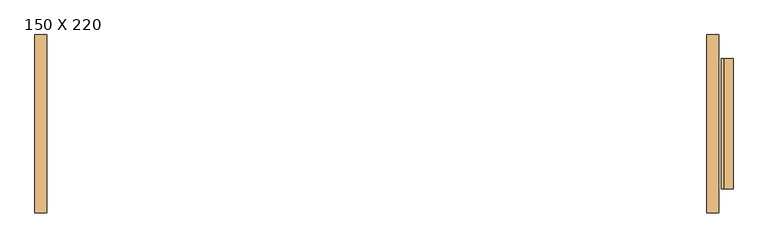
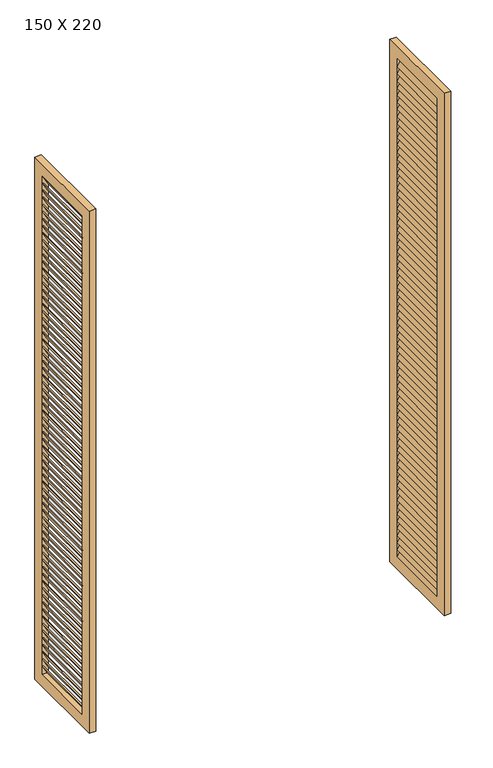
"""IFC4 building model written with IfcOpenShell, lengths in millimetres: door geometry, PORTA DE VIDRO COM ESQUADRIA DE CORRER - 2 FOLHAS + VENEZIANA SANFONADA - 4 FOLHAS : 150 X 220."""

from ifc_helpers import new_model, si_unit, frame, origin, place, context, project, spatial, polyline, outline, extrude, source, transform, mapped, element, save


def door_150_x_220_6ef245d6(model_context):
    return source(origin(), model_context, "Body", "SweptSolid", [
        extrude(outline(polyline([(2085.0724638, -687.8162356), (2085.0724638, -682.8162356), (2120.0724638, -702.8162356), (2120.0724638, -707.8162356), (2085.0724638, -687.8162356)])), frame((0.0, 60.1578647, 0.0), z_axis=(0.0, 1.0, 0.0), x_axis=(0.0, 0.0, 1.0)), (0.0, 0.0, 1.0), 275.0),
        extrude(outline(polyline([(2055.1449275, -687.8162356), (2055.1449275, -682.8162356), (2090.1449275, -702.8162356), (2090.1449275, -707.8162356), (2055.1449275, -687.8162356)])), frame((0.0, 60.1578647, 0.0), z_axis=(0.0, 1.0, 0.0), x_axis=(0.0, 0.0, 1.0)), (0.0, 0.0, 1.0), 275.0),
        extrude(outline(polyline([(2025.2173913, -687.8162356), (2025.2173913, -682.8162356), (2060.2173913, -702.8162356), (2060.2173913, -707.8162356), (2025.2173913, -687.8162356)])), frame((0.0, 60.1578647, 0.0), z_axis=(0.0, 1.0, 0.0), x_axis=(0.0, 0.0, 1.0)), (0.0, 0.0, 1.0), 275.0),
        extrude(outline(polyline([(1995.2898551, -687.8162356), (1995.2898551, -682.8162356), (2030.2898551, -702.8162356), (2030.2898551, -707.8162356), (1995.2898551, -687.8162356)])), frame((0.0, 60.1578647, 0.0), z_axis=(0.0, 1.0, 0.0), x_axis=(0.0, 0.0, 1.0)), (0.0, 0.0, 1.0), 275.0),
        extrude(outline(polyline([(1965.3623188, -687.8162356), (1965.3623188, -682.8162356), (2000.3623188, -702.8162356), (2000.3623188, -707.8162356), (1965.3623188, -687.8162356)])), frame((0.0, 60.1578647, 0.0), z_axis=(0.0, 1.0, 0.0), x_axis=(0.0, 0.0, 1.0)), (0.0, 0.0, 1.0), 275.0),
        extrude(outline(polyline([(1935.4347826, -687.8162356), (1935.4347826, -682.8162356), (1970.4347826, -702.8162356), (1970.4347826, -707.8162356), (1935.4347826, -687.8162356)])), frame((0.0, 60.1578647, 0.0), z_axis=(0.0, 1.0, 0.0), x_axis=(0.0, 0.0, 1.0)), (0.0, 0.0, 1.0), 275.0),
        extrude(outline(polyline([(1905.5072464, -687.8162356), (1905.5072464, -682.8162356), (1940.5072464, -702.8162356), (1940.5072464, -707.8162356), (1905.5072464, -687.8162356)])), frame((0.0, 60.1578647, 0.0), z_axis=(0.0, 1.0, 0.0), x_axis=(0.0, 0.0, 1.0)), (0.0, 0.0, 1.0), 275.0),
        extrude(outline(polyline([(1875.5797101, -687.8162356), (1875.5797101, -682.8162356), (1910.5797101, -702.8162356), (1910.5797101, -707.8162356), (1875.5797101, -687.8162356)])), frame((0.0, 60.1578647, 0.0), z_axis=(0.0, 1.0, 0.0), x_axis=(0.0, 0.0, 1.0)), (0.0, 0.0, 1.0), 275.0),
        extrude(outline(polyline([(1845.6521739, -687.8162356), (1845.6521739, -682.8162356), (1880.6521739, -702.8162356), (1880.6521739, -707.8162356), (1845.6521739, -687.8162356)])), frame((0.0, 60.1578647, 0.0), z_axis=(0.0, 1.0, 0.0), x_axis=(0.0, 0.0, 1.0)), (0.0, 0.0, 1.0), 275.0),
        extrude(outline(polyline([(1815.7246377, -687.8162356), (1815.7246377, -682.8162356), (1850.7246377, -702.8162356), (1850.7246377, -707.8162356), (1815.7246377, -687.8162356)])), frame((0.0, 60.1578647, 0.0), z_axis=(0.0, 1.0, 0.0), x_axis=(0.0, 0.0, 1.0)), (0.0, 0.0, 1.0), 275.0),
        extrude(outline(polyline([(1785.7971014, -687.8162356), (1785.7971014, -682.8162356), (1820.7971014, -702.8162356), (1820.7971014, -707.8162356), (1785.7971014, -687.8162356)])), frame((0.0, 60.1578647, 0.0), z_axis=(0.0, 1.0, 0.0), x_axis=(0.0, 0.0, 1.0)), (0.0, 0.0, 1.0), 275.0),
        extrude(outline(polyline([(1755.8695652, -687.8162356), (1755.8695652, -682.8162356), (1790.8695652, -702.8162356), (1790.8695652, -707.8162356), (1755.8695652, -687.8162356)])), frame((0.0, 60.1578647, 0.0), z_axis=(0.0, 1.0, 0.0), x_axis=(0.0, 0.0, 1.0)), (0.0, 0.0, 1.0), 275.0),
        extrude(outline(polyline([(1725.942029, -687.8162356), (1725.942029, -682.8162356), (1760.942029, -702.8162356), (1760.942029, -707.8162356), (1725.942029, -687.8162356)])), frame((0.0, 60.1578647, 0.0), z_axis=(0.0, 1.0, 0.0), x_axis=(0.0, 0.0, 1.0)), (0.0, 0.0, 1.0), 275.0),
        extrude(outline(polyline([(1696.0144928, -687.8162356), (1696.0144928, -682.8162356), (1731.0144928, -702.8162356), (1731.0144928, -707.8162356), (1696.0144928, -687.8162356)])), frame((0.0, 60.1578647, 0.0), z_axis=(0.0, 1.0, 0.0), x_axis=(0.0, 0.0, 1.0)), (0.0, 0.0, 1.0), 275.0),
        extrude(outline(polyline([(1666.0869565, -687.8162356), (1666.0869565, -682.8162356), (1701.0869565, -702.8162356), (1701.0869565, -707.8162356), (1666.0869565, -687.8162356)])), frame((0.0, 60.1578647, 0.0), z_axis=(0.0, 1.0, 0.0), x_axis=(0.0, 0.0, 1.0)), (0.0, 0.0, 1.0), 275.0),
        extrude(outline(polyline([(1636.1594203, -687.8162356), (1636.1594203, -682.8162356), (1671.1594203, -702.8162356), (1671.1594203, -707.8162356), (1636.1594203, -687.8162356)])), frame((0.0, 60.1578647, 0.0), z_axis=(0.0, 1.0, 0.0), x_axis=(0.0, 0.0, 1.0)), (0.0, 0.0, 1.0), 275.0),
        extrude(outline(polyline([(1606.2318841, -687.8162356), (1606.2318841, -682.8162356), (1641.2318841, -702.8162356), (1641.2318841, -707.8162356), (1606.2318841, -687.8162356)])), frame((0.0, 60.1578647, 0.0), z_axis=(0.0, 1.0, 0.0), x_axis=(0.0, 0.0, 1.0)), (0.0, 0.0, 1.0), 275.0),
        extrude(outline(polyline([(1576.3043478, -687.8162356), (1576.3043478, -682.8162356), (1611.3043478, -702.8162356), (1611.3043478, -707.8162356), (1576.3043478, -687.8162356)])), frame((0.0, 60.1578647, 0.0), z_axis=(0.0, 1.0, 0.0), x_axis=(0.0, 0.0, 1.0)), (0.0, 0.0, 1.0), 275.0),
        extrude(outline(polyline([(1546.3768116, -687.8162356), (1546.3768116, -682.8162356), (1581.3768116, -702.8162356), (1581.3768116, -707.8162356), (1546.3768116, -687.8162356)])), frame((0.0, 60.1578647, 0.0), z_axis=(0.0, 1.0, 0.0), x_axis=(0.0, 0.0, 1.0)), (0.0, 0.0, 1.0), 275.0),
        extrude(outline(polyline([(1516.4492754, -687.8162356), (1516.4492754, -682.8162356), (1551.4492754, -702.8162356), (1551.4492754, -707.8162356), (1516.4492754, -687.8162356)])), frame((0.0, 60.1578647, 0.0), z_axis=(0.0, 1.0, 0.0), x_axis=(0.0, 0.0, 1.0)), (0.0, 0.0, 1.0), 275.0),
        extrude(outline(polyline([(1486.5217391, -687.8162356), (1486.5217391, -682.8162356), (1521.5217391, -702.8162356), (1521.5217391, -707.8162356), (1486.5217391, -687.8162356)])), frame((0.0, 60.1578647, 0.0), z_axis=(0.0, 1.0, 0.0), x_axis=(0.0, 0.0, 1.0)), (0.0, 0.0, 1.0), 275.0),
        extrude(outline(polyline([(1456.5942029, -687.8162356), (1456.5942029, -682.8162356), (1491.5942029, -702.8162356), (1491.5942029, -707.8162356), (1456.5942029, -687.8162356)])), frame((0.0, 60.1578647, 0.0), z_axis=(0.0, 1.0, 0.0), x_axis=(0.0, 0.0, 1.0)), (0.0, 0.0, 1.0), 275.0),
        extrude(outline(polyline([(1426.6666667, -687.8162356), (1426.6666667, -682.8162356), (1461.6666667, -702.8162356), (1461.6666667, -707.8162356), (1426.6666667, -687.8162356)])), frame((0.0, 60.1578647, 0.0), z_axis=(0.0, 1.0, 0.0), x_axis=(0.0, 0.0, 1.0)), (0.0, 0.0, 1.0), 275.0),
        extrude(outline(polyline([(1396.7391304, -687.8162356), (1396.7391304, -682.8162356), (1431.7391304, -702.8162356), (1431.7391304, -707.8162356), (1396.7391304, -687.8162356)])), frame((0.0, 60.1578647, 0.0), z_axis=(0.0, 1.0, 0.0), x_axis=(0.0, 0.0, 1.0)), (0.0, 0.0, 1.0), 275.0),
        extrude(outline(polyline([(1366.8115942, -687.8162356), (1366.8115942, -682.8162356), (1401.8115942, -702.8162356), (1401.8115942, -707.8162356), (1366.8115942, -687.8162356)])), frame((0.0, 60.1578647, 0.0), z_axis=(0.0, 1.0, 0.0), x_axis=(0.0, 0.0, 1.0)), (0.0, 0.0, 1.0), 275.0),
        extrude(outline(polyline([(1336.884058, -687.8162356), (1336.884058, -682.8162356), (1371.884058, -702.8162356), (1371.884058, -707.8162356), (1336.884058, -687.8162356)])), frame((0.0, 60.1578647, 0.0), z_axis=(0.0, 1.0, 0.0), x_axis=(0.0, 0.0, 1.0)), (0.0, 0.0, 1.0), 275.0),
        extrude(outline(polyline([(1306.9565217, -687.8162356), (1306.9565217, -682.8162356), (1341.9565217, -702.8162356), (1341.9565217, -707.8162356), (1306.9565217, -687.8162356)])), frame((0.0, 60.1578647, 0.0), z_axis=(0.0, 1.0, 0.0), x_axis=(0.0, 0.0, 1.0)), (0.0, 0.0, 1.0), 275.0),
        extrude(outline(polyline([(1277.0289855, -687.8162356), (1277.0289855, -682.8162356), (1312.0289855, -702.8162356), (1312.0289855, -707.8162356), (1277.0289855, -687.8162356)])), frame((0.0, 60.1578647, 0.0), z_axis=(0.0, 1.0, 0.0), x_axis=(0.0, 0.0, 1.0)), (0.0, 0.0, 1.0), 275.0),
        extrude(outline(polyline([(1247.1014493, -687.8162356), (1247.1014493, -682.8162356), (1282.1014493, -702.8162356), (1282.1014493, -707.8162356), (1247.1014493, -687.8162356)])), frame((0.0, 60.1578647, 0.0), z_axis=(0.0, 1.0, 0.0), x_axis=(0.0, 0.0, 1.0)), (0.0, 0.0, 1.0), 275.0),
        extrude(outline(polyline([(1217.173913, -687.8162356), (1217.173913, -682.8162356), (1252.173913, -702.8162356), (1252.173913, -707.8162356), (1217.173913, -687.8162356)])), frame((0.0, 60.1578647, 0.0), z_axis=(0.0, 1.0, 0.0), x_axis=(0.0, 0.0, 1.0)), (0.0, 0.0, 1.0), 275.0),
        extrude(outline(polyline([(1187.2463768, -687.8162356), (1187.2463768, -682.8162356), (1222.2463768, -702.8162356), (1222.2463768, -707.8162356), (1187.2463768, -687.8162356)])), frame((0.0, 60.1578647, 0.0), z_axis=(0.0, 1.0, 0.0), x_axis=(0.0, 0.0, 1.0)), (0.0, 0.0, 1.0), 275.0),
        extrude(outline(polyline([(1157.3188406, -687.8162356), (1157.3188406, -682.8162356), (1192.3188406, -702.8162356), (1192.3188406, -707.8162356), (1157.3188406, -687.8162356)])), frame((0.0, 60.1578647, 0.0), z_axis=(0.0, 1.0, 0.0), x_axis=(0.0, 0.0, 1.0)), (0.0, 0.0, 1.0), 275.0),
        extrude(outline(polyline([(1127.3913043, -687.8162356), (1127.3913043, -682.8162356), (1162.3913043, -702.8162356), (1162.3913043, -707.8162356), (1127.3913043, -687.8162356)])), frame((0.0, 60.1578647, 0.0), z_axis=(0.0, 1.0, 0.0), x_axis=(0.0, 0.0, 1.0)), (0.0, 0.0, 1.0), 275.0),
        extrude(outline(polyline([(1097.4637681, -687.8162356), (1097.4637681, -682.8162356), (1132.4637681, -702.8162356), (1132.4637681, -707.8162356), (1097.4637681, -687.8162356)])), frame((0.0, 60.1578647, 0.0), z_axis=(0.0, 1.0, 0.0), x_axis=(0.0, 0.0, 1.0)), (0.0, 0.0, 1.0), 275.0),
        extrude(outline(polyline([(1067.5362319, -687.8162356), (1067.5362319, -682.8162356), (1102.5362319, -702.8162356), (1102.5362319, -707.8162356), (1067.5362319, -687.8162356)])), frame((0.0, 60.1578647, 0.0), z_axis=(0.0, 1.0, 0.0), x_axis=(0.0, 0.0, 1.0)), (0.0, 0.0, 1.0), 275.0),
        extrude(outline(polyline([(1037.6086957, -687.8162356), (1037.6086957, -682.8162356), (1072.6086957, -702.8162356), (1072.6086957, -707.8162356), (1037.6086957, -687.8162356)])), frame((0.0, 60.1578647, 0.0), z_axis=(0.0, 1.0, 0.0), x_axis=(0.0, 0.0, 1.0)), (0.0, 0.0, 1.0), 275.0),
        extrude(outline(polyline([(1007.6811594, -687.8162356), (1007.6811594, -682.8162356), (1042.6811594, -702.8162356), (1042.6811594, -707.8162356), (1007.6811594, -687.8162356)])), frame((0.0, 60.1578647, 0.0), z_axis=(0.0, 1.0, 0.0), x_axis=(0.0, 0.0, 1.0)), (0.0, 0.0, 1.0), 275.0),
        extrude(outline(polyline([(977.7536232, -687.8162356), (977.7536232, -682.8162356), (1012.7536232, -702.8162356), (1012.7536232, -707.8162356), (977.7536232, -687.8162356)])), frame((0.0, 60.1578647, 0.0), z_axis=(0.0, 1.0, 0.0), x_axis=(0.0, 0.0, 1.0)), (0.0, 0.0, 1.0), 275.0),
        extrude(outline(polyline([(947.826087, -687.8162356), (947.826087, -682.8162356), (982.826087, -702.8162356), (982.826087, -707.8162356), (947.826087, -687.8162356)])), frame((0.0, 60.1578647, 0.0), z_axis=(0.0, 1.0, 0.0), x_axis=(0.0, 0.0, 1.0)), (0.0, 0.0, 1.0), 275.0),
        extrude(outline(polyline([(917.8985507, -687.8162356), (917.8985507, -682.8162356), (952.8985507, -702.8162356), (952.8985507, -707.8162356), (917.8985507, -687.8162356)])), frame((0.0, 60.1578647, 0.0), z_axis=(0.0, 1.0, 0.0), x_axis=(0.0, 0.0, 1.0)), (0.0, 0.0, 1.0), 275.0),
        extrude(outline(polyline([(887.9710145, -687.8162356), (887.9710145, -682.8162356), (922.9710145, -702.8162356), (922.9710145, -707.8162356), (887.9710145, -687.8162356)])), frame((0.0, 60.1578647, 0.0), z_axis=(0.0, 1.0, 0.0), x_axis=(0.0, 0.0, 1.0)), (0.0, 0.0, 1.0), 275.0),
        extrude(outline(polyline([(858.0434783, -687.8162356), (858.0434783, -682.8162356), (893.0434783, -702.8162356), (893.0434783, -707.8162356), (858.0434783, -687.8162356)])), frame((0.0, 60.1578647, 0.0), z_axis=(0.0, 1.0, 0.0), x_axis=(0.0, 0.0, 1.0)), (0.0, 0.0, 1.0), 275.0),
        extrude(outline(polyline([(828.115942, -687.8162356), (828.115942, -682.8162356), (863.115942, -702.8162356), (863.115942, -707.8162356), (828.115942, -687.8162356)])), frame((0.0, 60.1578647, 0.0), z_axis=(0.0, 1.0, 0.0), x_axis=(0.0, 0.0, 1.0)), (0.0, 0.0, 1.0), 275.0),
        extrude(outline(polyline([(798.1884058, -687.8162356), (798.1884058, -682.8162356), (833.1884058, -702.8162356), (833.1884058, -707.8162356), (798.1884058, -687.8162356)])), frame((0.0, 60.1578647, 0.0), z_axis=(0.0, 1.0, 0.0), x_axis=(0.0, 0.0, 1.0)), (0.0, 0.0, 1.0), 275.0),
        extrude(outline(polyline([(768.2608696, -687.8162356), (768.2608696, -682.8162356), (803.2608696, -702.8162356), (803.2608696, -707.8162356), (768.2608696, -687.8162356)])), frame((0.0, 60.1578647, 0.0), z_axis=(0.0, 1.0, 0.0), x_axis=(0.0, 0.0, 1.0)), (0.0, 0.0, 1.0), 275.0),
        extrude(outline(polyline([(738.3333333, -687.8162356), (738.3333333, -682.8162356), (773.3333333, -702.8162356), (773.3333333, -707.8162356), (738.3333333, -687.8162356)])), frame((0.0, 60.1578647, 0.0), z_axis=(0.0, 1.0, 0.0), x_axis=(0.0, 0.0, 1.0)), (0.0, 0.0, 1.0), 275.0),
        extrude(outline(polyline([(708.4057971, -687.8162356), (708.4057971, -682.8162356), (743.4057971, -702.8162356), (743.4057971, -707.8162356), (708.4057971, -687.8162356)])), frame((0.0, 60.1578647, 0.0), z_axis=(0.0, 1.0, 0.0), x_axis=(0.0, 0.0, 1.0)), (0.0, 0.0, 1.0), 275.0),
        extrude(outline(polyline([(678.4782609, -687.8162356), (678.4782609, -682.8162356), (713.4782609, -702.8162356), (713.4782609, -707.8162356), (678.4782609, -687.8162356)])), frame((0.0, 60.1578647, 0.0), z_axis=(0.0, 1.0, 0.0), x_axis=(0.0, 0.0, 1.0)), (0.0, 0.0, 1.0), 275.0),
        extrude(outline(polyline([(648.5507246, -687.8162356), (648.5507246, -682.8162356), (683.5507246, -702.8162356), (683.5507246, -707.8162356), (648.5507246, -687.8162356)])), frame((0.0, 60.1578647, 0.0), z_axis=(0.0, 1.0, 0.0), x_axis=(0.0, 0.0, 1.0)), (0.0, 0.0, 1.0), 275.0),
        extrude(outline(polyline([(618.6231884, -687.8162356), (618.6231884, -682.8162356), (653.6231884, -702.8162356), (653.6231884, -707.8162356), (618.6231884, -687.8162356)])), frame((0.0, 60.1578647, 0.0), z_axis=(0.0, 1.0, 0.0), x_axis=(0.0, 0.0, 1.0)), (0.0, 0.0, 1.0), 275.0),
        extrude(outline(polyline([(588.6956522, -687.8162356), (588.6956522, -682.8162356), (623.6956522, -702.8162356), (623.6956522, -707.8162356), (588.6956522, -687.8162356)])), frame((0.0, 60.1578647, 0.0), z_axis=(0.0, 1.0, 0.0), x_axis=(0.0, 0.0, 1.0)), (0.0, 0.0, 1.0), 275.0),
        extrude(outline(polyline([(558.7681159, -687.8162356), (558.7681159, -682.8162356), (593.7681159, -702.8162356), (593.7681159, -707.8162356), (558.7681159, -687.8162356)])), frame((0.0, 60.1578647, 0.0), z_axis=(0.0, 1.0, 0.0), x_axis=(0.0, 0.0, 1.0)), (0.0, 0.0, 1.0), 275.0),
        extrude(outline(polyline([(528.8405797, -687.8162356), (528.8405797, -682.8162356), (563.8405797, -702.8162356), (563.8405797, -707.8162356), (528.8405797, -687.8162356)])), frame((0.0, 60.1578647, 0.0), z_axis=(0.0, 1.0, 0.0), x_axis=(0.0, 0.0, 1.0)), (0.0, 0.0, 1.0), 275.0),
        extrude(outline(polyline([(498.9130435, -687.8162356), (498.9130435, -682.8162356), (533.9130435, -702.8162356), (533.9130435, -707.8162356), (498.9130435, -687.8162356)])), frame((0.0, 60.1578647, 0.0), z_axis=(0.0, 1.0, 0.0), x_axis=(0.0, 0.0, 1.0)), (0.0, 0.0, 1.0), 275.0),
        extrude(outline(polyline([(468.9855072, -687.8162356), (468.9855072, -682.8162356), (503.9855072, -702.8162356), (503.9855072, -707.8162356), (468.9855072, -687.8162356)])), frame((0.0, 60.1578647, 0.0), z_axis=(0.0, 1.0, 0.0), x_axis=(0.0, 0.0, 1.0)), (0.0, 0.0, 1.0), 275.0),
        extrude(outline(polyline([(439.057971, -687.8162356), (439.057971, -682.8162356), (474.057971, -702.8162356), (474.057971, -707.8162356), (439.057971, -687.8162356)])), frame((0.0, 60.1578647, 0.0), z_axis=(0.0, 1.0, 0.0), x_axis=(0.0, 0.0, 1.0)), (0.0, 0.0, 1.0), 275.0),
        extrude(outline(polyline([(409.1304348, -687.8162356), (409.1304348, -682.8162356), (444.1304348, -702.8162356), (444.1304348, -707.8162356), (409.1304348, -687.8162356)])), frame((0.0, 60.1578647, 0.0), z_axis=(0.0, 1.0, 0.0), x_axis=(0.0, 0.0, 1.0)), (0.0, 0.0, 1.0), 275.0),
        extrude(outline(polyline([(379.2028986, -687.8162356), (379.2028986, -682.8162356), (414.2028986, -702.8162356), (414.2028986, -707.8162356), (379.2028986, -687.8162356)])), frame((0.0, 60.1578647, 0.0), z_axis=(0.0, 1.0, 0.0), x_axis=(0.0, 0.0, 1.0)), (0.0, 0.0, 1.0), 275.0),
        extrude(outline(polyline([(349.2753623, -687.8162356), (349.2753623, -682.8162356), (384.2753623, -702.8162356), (384.2753623, -707.8162356), (349.2753623, -687.8162356)])), frame((0.0, 60.1578647, 0.0), z_axis=(0.0, 1.0, 0.0), x_axis=(0.0, 0.0, 1.0)), (0.0, 0.0, 1.0), 275.0),
        extrude(outline(polyline([(319.3478261, -687.8162356), (319.3478261, -682.8162356), (354.3478261, -702.8162356), (354.3478261, -707.8162356), (319.3478261, -687.8162356)])), frame((0.0, 60.1578647, 0.0), z_axis=(0.0, 1.0, 0.0), x_axis=(0.0, 0.0, 1.0)), (0.0, 0.0, 1.0), 275.0),
        extrude(outline(polyline([(289.4202899, -687.8162356), (289.4202899, -682.8162356), (324.4202899, -702.8162356), (324.4202899, -707.8162356), (289.4202899, -687.8162356)])), frame((0.0, 60.1578647, 0.0), z_axis=(0.0, 1.0, 0.0), x_axis=(0.0, 0.0, 1.0)), (0.0, 0.0, 1.0), 275.0),
        extrude(outline(polyline([(259.4927536, -687.8162356), (259.4927536, -682.8162356), (294.4927536, -702.8162356), (294.4927536, -707.8162356), (259.4927536, -687.8162356)])), frame((0.0, 60.1578647, 0.0), z_axis=(0.0, 1.0, 0.0), x_axis=(0.0, 0.0, 1.0)), (0.0, 0.0, 1.0), 275.0),
        extrude(outline(polyline([(229.5652174, -687.8162356), (229.5652174, -682.8162356), (264.5652174, -702.8162356), (264.5652174, -707.8162356), (229.5652174, -687.8162356)])), frame((0.0, 60.1578647, 0.0), z_axis=(0.0, 1.0, 0.0), x_axis=(0.0, 0.0, 1.0)), (0.0, 0.0, 1.0), 275.0),
        extrude(outline(polyline([(199.6376812, -687.8162356), (199.6376812, -682.8162356), (234.6376812, -702.8162356), (234.6376812, -707.8162356), (199.6376812, -687.8162356)])), frame((0.0, 60.1578647, 0.0), z_axis=(0.0, 1.0, 0.0), x_axis=(0.0, 0.0, 1.0)), (0.0, 0.0, 1.0), 275.0),
        extrude(outline(polyline([(169.7101449, -687.8162356), (169.7101449, -682.8162356), (204.7101449, -702.8162356), (204.7101449, -707.8162356), (169.7101449, -687.8162356)])), frame((0.0, 60.1578647, 0.0), z_axis=(0.0, 1.0, 0.0), x_axis=(0.0, 0.0, 1.0)), (0.0, 0.0, 1.0), 275.0),
        extrude(outline(polyline([(139.7826087, -687.8162356), (139.7826087, -682.8162356), (174.7826087, -702.8162356), (174.7826087, -707.8162356), (139.7826087, -687.8162356)])), frame((0.0, 60.1578647, 0.0), z_axis=(0.0, 1.0, 0.0), x_axis=(0.0, 0.0, 1.0)), (0.0, 0.0, 1.0), 275.0),
        extrude(outline(polyline([(109.8550725, -687.8162356), (109.8550725, -682.8162356), (144.8550725, -702.8162356), (144.8550725, -707.8162356), (109.8550725, -687.8162356)])), frame((0.0, 60.1578647, 0.0), z_axis=(0.0, 1.0, 0.0), x_axis=(0.0, 0.0, 1.0)), (0.0, 0.0, 1.0), 275.0),
        extrude(outline(polyline([(79.9275362, -687.8162356), (79.9275362, -682.8162356), (114.9275362, -702.8162356), (114.9275362, -707.8162356), (79.9275362, -687.8162356)])), frame((0.0, 60.1578647, 0.0), z_axis=(0.0, 1.0, 0.0), x_axis=(0.0, 0.0, 1.0)), (0.0, 0.0, 1.0), 275.0),
        extrude(outline(polyline([(2115.0, -687.8162356), (2115.0, -682.8162356), (2150.0, -702.8162356), (2150.0, -707.8162356), (2115.0, -687.8162356)])), frame((0.0, 60.1578647, 0.0), z_axis=(0.0, 1.0, 0.0), x_axis=(0.0, 0.0, 1.0)), (0.0, 0.0, 1.0), 275.0),
        extrude(outline(polyline([(50.0, -687.8162356), (50.0, -682.8162356), (85.0, -702.8162356), (85.0, -707.8162356), (50.0, -687.8162356)])), frame((0.0, 60.1578647, 0.0), z_axis=(0.0, 1.0, 0.0), x_axis=(0.0, 0.0, 1.0)), (0.0, 0.0, 1.0), 275.0),
        extrude(outline(polyline([(10.1578647, 2200.0), (385.1578647, 2200.0), (385.1578647, 0.0), (10.1578647, 0.0), (10.1578647, 2200.0)]), holes=[polyline([(60.1578647, 2150.0), (60.1578647, 50.0), (335.1578647, 50.0), (335.1578647, 2150.0), (60.1578647, 2150.0)])]), frame((-707.8162356, 0.0, 0.0), z_axis=(1.0, 0.0, 0.0), x_axis=(0.0, 1.0, 0.0)), (0.0, 0.0, 1.0), 25.0),
        extrude(outline(polyline([(2085.0724638, 712.1837644), (2120.0724638, 732.1837644), (2120.0724638, 727.1837644), (2085.0724638, 707.1837644), (2085.0724638, 712.1837644)])), frame((0.0, 60.1578647, 0.0), z_axis=(0.0, 1.0, 0.0), x_axis=(0.0, 0.0, 1.0)), (0.0, 0.0, 1.0), 275.0),
        extrude(outline(polyline([(2055.1449275, 712.1837644), (2090.1449275, 732.1837644), (2090.1449275, 727.1837644), (2055.1449275, 707.1837644), (2055.1449275, 712.1837644)])), frame((0.0, 60.1578647, 0.0), z_axis=(0.0, 1.0, 0.0), x_axis=(0.0, 0.0, 1.0)), (0.0, 0.0, 1.0), 275.0),
        extrude(outline(polyline([(2025.2173913, 712.1837644), (2060.2173913, 732.1837644), (2060.2173913, 727.1837644), (2025.2173913, 707.1837644), (2025.2173913, 712.1837644)])), frame((0.0, 60.1578647, 0.0), z_axis=(0.0, 1.0, 0.0), x_axis=(0.0, 0.0, 1.0)), (0.0, 0.0, 1.0), 275.0),
        extrude(outline(polyline([(1995.2898551, 712.1837644), (2030.2898551, 732.1837644), (2030.2898551, 727.1837644), (1995.2898551, 707.1837644), (1995.2898551, 712.1837644)])), frame((0.0, 60.1578647, 0.0), z_axis=(0.0, 1.0, 0.0), x_axis=(0.0, 0.0, 1.0)), (0.0, 0.0, 1.0), 275.0),
        extrude(outline(polyline([(1965.3623188, 712.1837644), (2000.3623188, 732.1837644), (2000.3623188, 727.1837644), (1965.3623188, 707.1837644), (1965.3623188, 712.1837644)])), frame((0.0, 60.1578647, 0.0), z_axis=(0.0, 1.0, 0.0), x_axis=(0.0, 0.0, 1.0)), (0.0, 0.0, 1.0), 275.0),
        extrude(outline(polyline([(1935.4347826, 712.1837644), (1970.4347826, 732.1837644), (1970.4347826, 727.1837644), (1935.4347826, 707.1837644), (1935.4347826, 712.1837644)])), frame((0.0, 60.1578647, 0.0), z_axis=(0.0, 1.0, 0.0), x_axis=(0.0, 0.0, 1.0)), (0.0, 0.0, 1.0), 275.0),
        extrude(outline(polyline([(1905.5072464, 712.1837644), (1940.5072464, 732.1837644), (1940.5072464, 727.1837644), (1905.5072464, 707.1837644), (1905.5072464, 712.1837644)])), frame((0.0, 60.1578647, 0.0), z_axis=(0.0, 1.0, 0.0), x_axis=(0.0, 0.0, 1.0)), (0.0, 0.0, 1.0), 275.0),
        extrude(outline(polyline([(1875.5797101, 712.1837644), (1910.5797101, 732.1837644), (1910.5797101, 727.1837644), (1875.5797101, 707.1837644), (1875.5797101, 712.1837644)])), frame((0.0, 60.1578647, 0.0), z_axis=(0.0, 1.0, 0.0), x_axis=(0.0, 0.0, 1.0)), (0.0, 0.0, 1.0), 275.0),
        extrude(outline(polyline([(1845.6521739, 712.1837644), (1880.6521739, 732.1837644), (1880.6521739, 727.1837644), (1845.6521739, 707.1837644), (1845.6521739, 712.1837644)])), frame((0.0, 60.1578647, 0.0), z_axis=(0.0, 1.0, 0.0), x_axis=(0.0, 0.0, 1.0)), (0.0, 0.0, 1.0), 275.0),
        extrude(outline(polyline([(1815.7246377, 712.1837644), (1850.7246377, 732.1837644), (1850.7246377, 727.1837644), (1815.7246377, 707.1837644), (1815.7246377, 712.1837644)])), frame((0.0, 60.1578647, 0.0), z_axis=(0.0, 1.0, 0.0), x_axis=(0.0, 0.0, 1.0)), (0.0, 0.0, 1.0), 275.0),
        extrude(outline(polyline([(1785.7971014, 712.1837644), (1820.7971014, 732.1837644), (1820.7971014, 727.1837644), (1785.7971014, 707.1837644), (1785.7971014, 712.1837644)])), frame((0.0, 60.1578647, 0.0), z_axis=(0.0, 1.0, 0.0), x_axis=(0.0, 0.0, 1.0)), (0.0, 0.0, 1.0), 275.0),
        extrude(outline(polyline([(1755.8695652, 712.1837644), (1790.8695652, 732.1837644), (1790.8695652, 727.1837644), (1755.8695652, 707.1837644), (1755.8695652, 712.1837644)])), frame((0.0, 60.1578647, 0.0), z_axis=(0.0, 1.0, 0.0), x_axis=(0.0, 0.0, 1.0)), (0.0, 0.0, 1.0), 275.0),
        extrude(outline(polyline([(1725.942029, 712.1837644), (1760.942029, 732.1837644), (1760.942029, 727.1837644), (1725.942029, 707.1837644), (1725.942029, 712.1837644)])), frame((0.0, 60.1578647, 0.0), z_axis=(0.0, 1.0, 0.0), x_axis=(0.0, 0.0, 1.0)), (0.0, 0.0, 1.0), 275.0),
        extrude(outline(polyline([(1696.0144928, 712.1837644), (1731.0144928, 732.1837644), (1731.0144928, 727.1837644), (1696.0144928, 707.1837644), (1696.0144928, 712.1837644)])), frame((0.0, 60.1578647, 0.0), z_axis=(0.0, 1.0, 0.0), x_axis=(0.0, 0.0, 1.0)), (0.0, 0.0, 1.0), 275.0),
        extrude(outline(polyline([(1666.0869565, 712.1837644), (1701.0869565, 732.1837644), (1701.0869565, 727.1837644), (1666.0869565, 707.1837644), (1666.0869565, 712.1837644)])), frame((0.0, 60.1578647, 0.0), z_axis=(0.0, 1.0, 0.0), x_axis=(0.0, 0.0, 1.0)), (0.0, 0.0, 1.0), 275.0),
        extrude(outline(polyline([(1636.1594203, 712.1837644), (1671.1594203, 732.1837644), (1671.1594203, 727.1837644), (1636.1594203, 707.1837644), (1636.1594203, 712.1837644)])), frame((0.0, 60.1578647, 0.0), z_axis=(0.0, 1.0, 0.0), x_axis=(0.0, 0.0, 1.0)), (0.0, 0.0, 1.0), 275.0),
        extrude(outline(polyline([(1606.2318841, 712.1837644), (1641.2318841, 732.1837644), (1641.2318841, 727.1837644), (1606.2318841, 707.1837644), (1606.2318841, 712.1837644)])), frame((0.0, 60.1578647, 0.0), z_axis=(0.0, 1.0, 0.0), x_axis=(0.0, 0.0, 1.0)), (0.0, 0.0, 1.0), 275.0),
        extrude(outline(polyline([(1576.3043478, 712.1837644), (1611.3043478, 732.1837644), (1611.3043478, 727.1837644), (1576.3043478, 707.1837644), (1576.3043478, 712.1837644)])), frame((0.0, 60.1578647, 0.0), z_axis=(0.0, 1.0, 0.0), x_axis=(0.0, 0.0, 1.0)), (0.0, 0.0, 1.0), 275.0),
        extrude(outline(polyline([(1546.3768116, 712.1837644), (1581.3768116, 732.1837644), (1581.3768116, 727.1837644), (1546.3768116, 707.1837644), (1546.3768116, 712.1837644)])), frame((0.0, 60.1578647, 0.0), z_axis=(0.0, 1.0, 0.0), x_axis=(0.0, 0.0, 1.0)), (0.0, 0.0, 1.0), 275.0),
        extrude(outline(polyline([(1516.4492754, 712.1837644), (1551.4492754, 732.1837644), (1551.4492754, 727.1837644), (1516.4492754, 707.1837644), (1516.4492754, 712.1837644)])), frame((0.0, 60.1578647, 0.0), z_axis=(0.0, 1.0, 0.0), x_axis=(0.0, 0.0, 1.0)), (0.0, 0.0, 1.0), 275.0),
        extrude(outline(polyline([(1486.5217391, 712.1837644), (1521.5217391, 732.1837644), (1521.5217391, 727.1837644), (1486.5217391, 707.1837644), (1486.5217391, 712.1837644)])), frame((0.0, 60.1578647, 0.0), z_axis=(0.0, 1.0, 0.0), x_axis=(0.0, 0.0, 1.0)), (0.0, 0.0, 1.0), 275.0),
        extrude(outline(polyline([(1456.5942029, 712.1837644), (1491.5942029, 732.1837644), (1491.5942029, 727.1837644), (1456.5942029, 707.1837644), (1456.5942029, 712.1837644)])), frame((0.0, 60.1578647, 0.0), z_axis=(0.0, 1.0, 0.0), x_axis=(0.0, 0.0, 1.0)), (0.0, 0.0, 1.0), 275.0),
        extrude(outline(polyline([(1426.6666667, 712.1837644), (1461.6666667, 732.1837644), (1461.6666667, 727.1837644), (1426.6666667, 707.1837644), (1426.6666667, 712.1837644)])), frame((0.0, 60.1578647, 0.0), z_axis=(0.0, 1.0, 0.0), x_axis=(0.0, 0.0, 1.0)), (0.0, 0.0, 1.0), 275.0),
        extrude(outline(polyline([(1396.7391304, 712.1837644), (1431.7391304, 732.1837644), (1431.7391304, 727.1837644), (1396.7391304, 707.1837644), (1396.7391304, 712.1837644)])), frame((0.0, 60.1578647, 0.0), z_axis=(0.0, 1.0, 0.0), x_axis=(0.0, 0.0, 1.0)), (0.0, 0.0, 1.0), 275.0),
        extrude(outline(polyline([(1366.8115942, 712.1837644), (1401.8115942, 732.1837644), (1401.8115942, 727.1837644), (1366.8115942, 707.1837644), (1366.8115942, 712.1837644)])), frame((0.0, 60.1578647, 0.0), z_axis=(0.0, 1.0, 0.0), x_axis=(0.0, 0.0, 1.0)), (0.0, 0.0, 1.0), 275.0),
        extrude(outline(polyline([(1336.884058, 712.1837644), (1371.884058, 732.1837644), (1371.884058, 727.1837644), (1336.884058, 707.1837644), (1336.884058, 712.1837644)])), frame((0.0, 60.1578647, 0.0), z_axis=(0.0, 1.0, 0.0), x_axis=(0.0, 0.0, 1.0)), (0.0, 0.0, 1.0), 275.0),
        extrude(outline(polyline([(1306.9565217, 712.1837644), (1341.9565217, 732.1837644), (1341.9565217, 727.1837644), (1306.9565217, 707.1837644), (1306.9565217, 712.1837644)])), frame((0.0, 60.1578647, 0.0), z_axis=(0.0, 1.0, 0.0), x_axis=(0.0, 0.0, 1.0)), (0.0, 0.0, 1.0), 275.0),
        extrude(outline(polyline([(1277.0289855, 712.1837644), (1312.0289855, 732.1837644), (1312.0289855, 727.1837644), (1277.0289855, 707.1837644), (1277.0289855, 712.1837644)])), frame((0.0, 60.1578647, 0.0), z_axis=(0.0, 1.0, 0.0), x_axis=(0.0, 0.0, 1.0)), (0.0, 0.0, 1.0), 275.0),
        extrude(outline(polyline([(1247.1014493, 712.1837644), (1282.1014493, 732.1837644), (1282.1014493, 727.1837644), (1247.1014493, 707.1837644), (1247.1014493, 712.1837644)])), frame((0.0, 60.1578647, 0.0), z_axis=(0.0, 1.0, 0.0), x_axis=(0.0, 0.0, 1.0)), (0.0, 0.0, 1.0), 275.0),
        extrude(outline(polyline([(1217.173913, 712.1837644), (1252.173913, 732.1837644), (1252.173913, 727.1837644), (1217.173913, 707.1837644), (1217.173913, 712.1837644)])), frame((0.0, 60.1578647, 0.0), z_axis=(0.0, 1.0, 0.0), x_axis=(0.0, 0.0, 1.0)), (0.0, 0.0, 1.0), 275.0),
        extrude(outline(polyline([(1187.2463768, 712.1837644), (1222.2463768, 732.1837644), (1222.2463768, 727.1837644), (1187.2463768, 707.1837644), (1187.2463768, 712.1837644)])), frame((0.0, 60.1578647, 0.0), z_axis=(0.0, 1.0, 0.0), x_axis=(0.0, 0.0, 1.0)), (0.0, 0.0, 1.0), 275.0),
        extrude(outline(polyline([(1157.3188406, 712.1837644), (1192.3188406, 732.1837644), (1192.3188406, 727.1837644), (1157.3188406, 707.1837644), (1157.3188406, 712.1837644)])), frame((0.0, 60.1578647, 0.0), z_axis=(0.0, 1.0, 0.0), x_axis=(0.0, 0.0, 1.0)), (0.0, 0.0, 1.0), 275.0),
        extrude(outline(polyline([(1127.3913043, 712.1837644), (1162.3913043, 732.1837644), (1162.3913043, 727.1837644), (1127.3913043, 707.1837644), (1127.3913043, 712.1837644)])), frame((0.0, 60.1578647, 0.0), z_axis=(0.0, 1.0, 0.0), x_axis=(0.0, 0.0, 1.0)), (0.0, 0.0, 1.0), 275.0),
        extrude(outline(polyline([(1097.4637681, 712.1837644), (1132.4637681, 732.1837644), (1132.4637681, 727.1837644), (1097.4637681, 707.1837644), (1097.4637681, 712.1837644)])), frame((0.0, 60.1578647, 0.0), z_axis=(0.0, 1.0, 0.0), x_axis=(0.0, 0.0, 1.0)), (0.0, 0.0, 1.0), 275.0),
        extrude(outline(polyline([(1067.5362319, 712.1837644), (1102.5362319, 732.1837644), (1102.5362319, 727.1837644), (1067.5362319, 707.1837644), (1067.5362319, 712.1837644)])), frame((0.0, 60.1578647, 0.0), z_axis=(0.0, 1.0, 0.0), x_axis=(0.0, 0.0, 1.0)), (0.0, 0.0, 1.0), 275.0),
        extrude(outline(polyline([(1037.6086957, 712.1837644), (1072.6086957, 732.1837644), (1072.6086957, 727.1837644), (1037.6086957, 707.1837644), (1037.6086957, 712.1837644)])), frame((0.0, 60.1578647, 0.0), z_axis=(0.0, 1.0, 0.0), x_axis=(0.0, 0.0, 1.0)), (0.0, 0.0, 1.0), 275.0),
        extrude(outline(polyline([(1007.6811594, 712.1837644), (1042.6811594, 732.1837644), (1042.6811594, 727.1837644), (1007.6811594, 707.1837644), (1007.6811594, 712.1837644)])), frame((0.0, 60.1578647, 0.0), z_axis=(0.0, 1.0, 0.0), x_axis=(0.0, 0.0, 1.0)), (0.0, 0.0, 1.0), 275.0),
        extrude(outline(polyline([(977.7536232, 712.1837644), (1012.7536232, 732.1837644), (1012.7536232, 727.1837644), (977.7536232, 707.1837644), (977.7536232, 712.1837644)])), frame((0.0, 60.1578647, 0.0), z_axis=(0.0, 1.0, 0.0), x_axis=(0.0, 0.0, 1.0)), (0.0, 0.0, 1.0), 275.0),
        extrude(outline(polyline([(947.826087, 712.1837644), (982.826087, 732.1837644), (982.826087, 727.1837644), (947.826087, 707.1837644), (947.826087, 712.1837644)])), frame((0.0, 60.1578647, 0.0), z_axis=(0.0, 1.0, 0.0), x_axis=(0.0, 0.0, 1.0)), (0.0, 0.0, 1.0), 275.0),
        extrude(outline(polyline([(917.8985507, 712.1837644), (952.8985507, 732.1837644), (952.8985507, 727.1837644), (917.8985507, 707.1837644), (917.8985507, 712.1837644)])), frame((0.0, 60.1578647, 0.0), z_axis=(0.0, 1.0, 0.0), x_axis=(0.0, 0.0, 1.0)), (0.0, 0.0, 1.0), 275.0),
        extrude(outline(polyline([(887.9710145, 712.1837644), (922.9710145, 732.1837644), (922.9710145, 727.1837644), (887.9710145, 707.1837644), (887.9710145, 712.1837644)])), frame((0.0, 60.1578647, 0.0), z_axis=(0.0, 1.0, 0.0), x_axis=(0.0, 0.0, 1.0)), (0.0, 0.0, 1.0), 275.0),
        extrude(outline(polyline([(858.0434783, 712.1837644), (893.0434783, 732.1837644), (893.0434783, 727.1837644), (858.0434783, 707.1837644), (858.0434783, 712.1837644)])), frame((0.0, 60.1578647, 0.0), z_axis=(0.0, 1.0, 0.0), x_axis=(0.0, 0.0, 1.0)), (0.0, 0.0, 1.0), 275.0),
        extrude(outline(polyline([(828.115942, 712.1837644), (863.115942, 732.1837644), (863.115942, 727.1837644), (828.115942, 707.1837644), (828.115942, 712.1837644)])), frame((0.0, 60.1578647, 0.0), z_axis=(0.0, 1.0, 0.0), x_axis=(0.0, 0.0, 1.0)), (0.0, 0.0, 1.0), 275.0),
        extrude(outline(polyline([(798.1884058, 712.1837644), (833.1884058, 732.1837644), (833.1884058, 727.1837644), (798.1884058, 707.1837644), (798.1884058, 712.1837644)])), frame((0.0, 60.1578647, 0.0), z_axis=(0.0, 1.0, 0.0), x_axis=(0.0, 0.0, 1.0)), (0.0, 0.0, 1.0), 275.0),
        extrude(outline(polyline([(768.2608696, 712.1837644), (803.2608696, 732.1837644), (803.2608696, 727.1837644), (768.2608696, 707.1837644), (768.2608696, 712.1837644)])), frame((0.0, 60.1578647, 0.0), z_axis=(0.0, 1.0, 0.0), x_axis=(0.0, 0.0, 1.0)), (0.0, 0.0, 1.0), 275.0),
        extrude(outline(polyline([(738.3333333, 712.1837644), (773.3333333, 732.1837644), (773.3333333, 727.1837644), (738.3333333, 707.1837644), (738.3333333, 712.1837644)])), frame((0.0, 60.1578647, 0.0), z_axis=(0.0, 1.0, 0.0), x_axis=(0.0, 0.0, 1.0)), (0.0, 0.0, 1.0), 275.0),
        extrude(outline(polyline([(708.4057971, 712.1837644), (743.4057971, 732.1837644), (743.4057971, 727.1837644), (708.4057971, 707.1837644), (708.4057971, 712.1837644)])), frame((0.0, 60.1578647, 0.0), z_axis=(0.0, 1.0, 0.0), x_axis=(0.0, 0.0, 1.0)), (0.0, 0.0, 1.0), 275.0),
        extrude(outline(polyline([(678.4782609, 712.1837644), (713.4782609, 732.1837644), (713.4782609, 727.1837644), (678.4782609, 707.1837644), (678.4782609, 712.1837644)])), frame((0.0, 60.1578647, 0.0), z_axis=(0.0, 1.0, 0.0), x_axis=(0.0, 0.0, 1.0)), (0.0, 0.0, 1.0), 275.0),
        extrude(outline(polyline([(648.5507246, 712.1837644), (683.5507246, 732.1837644), (683.5507246, 727.1837644), (648.5507246, 707.1837644), (648.5507246, 712.1837644)])), frame((0.0, 60.1578647, 0.0), z_axis=(0.0, 1.0, 0.0), x_axis=(0.0, 0.0, 1.0)), (0.0, 0.0, 1.0), 275.0),
        extrude(outline(polyline([(618.6231884, 712.1837644), (653.6231884, 732.1837644), (653.6231884, 727.1837644), (618.6231884, 707.1837644), (618.6231884, 712.1837644)])), frame((0.0, 60.1578647, 0.0), z_axis=(0.0, 1.0, 0.0), x_axis=(0.0, 0.0, 1.0)), (0.0, 0.0, 1.0), 275.0),
        extrude(outline(polyline([(588.6956522, 712.1837644), (623.6956522, 732.1837644), (623.6956522, 727.1837644), (588.6956522, 707.1837644), (588.6956522, 712.1837644)])), frame((0.0, 60.1578647, 0.0), z_axis=(0.0, 1.0, 0.0), x_axis=(0.0, 0.0, 1.0)), (0.0, 0.0, 1.0), 275.0),
        extrude(outline(polyline([(558.7681159, 712.1837644), (593.7681159, 732.1837644), (593.7681159, 727.1837644), (558.7681159, 707.1837644), (558.7681159, 712.1837644)])), frame((0.0, 60.1578647, 0.0), z_axis=(0.0, 1.0, 0.0), x_axis=(0.0, 0.0, 1.0)), (0.0, 0.0, 1.0), 275.0),
        extrude(outline(polyline([(528.8405797, 712.1837644), (563.8405797, 732.1837644), (563.8405797, 727.1837644), (528.8405797, 707.1837644), (528.8405797, 712.1837644)])), frame((0.0, 60.1578647, 0.0), z_axis=(0.0, 1.0, 0.0), x_axis=(0.0, 0.0, 1.0)), (0.0, 0.0, 1.0), 275.0),
        extrude(outline(polyline([(498.9130435, 712.1837644), (533.9130435, 732.1837644), (533.9130435, 727.1837644), (498.9130435, 707.1837644), (498.9130435, 712.1837644)])), frame((0.0, 60.1578647, 0.0), z_axis=(0.0, 1.0, 0.0), x_axis=(0.0, 0.0, 1.0)), (0.0, 0.0, 1.0), 275.0),
        extrude(outline(polyline([(468.9855072, 712.1837644), (503.9855072, 732.1837644), (503.9855072, 727.1837644), (468.9855072, 707.1837644), (468.9855072, 712.1837644)])), frame((0.0, 60.1578647, 0.0), z_axis=(0.0, 1.0, 0.0), x_axis=(0.0, 0.0, 1.0)), (0.0, 0.0, 1.0), 275.0),
        extrude(outline(polyline([(439.057971, 712.1837644), (474.057971, 732.1837644), (474.057971, 727.1837644), (439.057971, 707.1837644), (439.057971, 712.1837644)])), frame((0.0, 60.1578647, 0.0), z_axis=(0.0, 1.0, 0.0), x_axis=(0.0, 0.0, 1.0)), (0.0, 0.0, 1.0), 275.0),
        extrude(outline(polyline([(409.1304348, 712.1837644), (444.1304348, 732.1837644), (444.1304348, 727.1837644), (409.1304348, 707.1837644), (409.1304348, 712.1837644)])), frame((0.0, 60.1578647, 0.0), z_axis=(0.0, 1.0, 0.0), x_axis=(0.0, 0.0, 1.0)), (0.0, 0.0, 1.0), 275.0),
        extrude(outline(polyline([(379.2028986, 712.1837644), (414.2028986, 732.1837644), (414.2028986, 727.1837644), (379.2028986, 707.1837644), (379.2028986, 712.1837644)])), frame((0.0, 60.1578647, 0.0), z_axis=(0.0, 1.0, 0.0), x_axis=(0.0, 0.0, 1.0)), (0.0, 0.0, 1.0), 275.0),
        extrude(outline(polyline([(349.2753623, 712.1837644), (384.2753623, 732.1837644), (384.2753623, 727.1837644), (349.2753623, 707.1837644), (349.2753623, 712.1837644)])), frame((0.0, 60.1578647, 0.0), z_axis=(0.0, 1.0, 0.0), x_axis=(0.0, 0.0, 1.0)), (0.0, 0.0, 1.0), 275.0),
        extrude(outline(polyline([(319.3478261, 712.1837644), (354.3478261, 732.1837644), (354.3478261, 727.1837644), (319.3478261, 707.1837644), (319.3478261, 712.1837644)])), frame((0.0, 60.1578647, 0.0), z_axis=(0.0, 1.0, 0.0), x_axis=(0.0, 0.0, 1.0)), (0.0, 0.0, 1.0), 275.0),
        extrude(outline(polyline([(289.4202899, 712.1837644), (324.4202899, 732.1837644), (324.4202899, 727.1837644), (289.4202899, 707.1837644), (289.4202899, 712.1837644)])), frame((0.0, 60.1578647, 0.0), z_axis=(0.0, 1.0, 0.0), x_axis=(0.0, 0.0, 1.0)), (0.0, 0.0, 1.0), 275.0),
        extrude(outline(polyline([(259.4927536, 712.1837644), (294.4927536, 732.1837644), (294.4927536, 727.1837644), (259.4927536, 707.1837644), (259.4927536, 712.1837644)])), frame((0.0, 60.1578647, 0.0), z_axis=(0.0, 1.0, 0.0), x_axis=(0.0, 0.0, 1.0)), (0.0, 0.0, 1.0), 275.0),
        extrude(outline(polyline([(229.5652174, 712.1837644), (264.5652174, 732.1837644), (264.5652174, 727.1837644), (229.5652174, 707.1837644), (229.5652174, 712.1837644)])), frame((0.0, 60.1578647, 0.0), z_axis=(0.0, 1.0, 0.0), x_axis=(0.0, 0.0, 1.0)), (0.0, 0.0, 1.0), 275.0),
        extrude(outline(polyline([(199.6376812, 712.1837644), (234.6376812, 732.1837644), (234.6376812, 727.1837644), (199.6376812, 707.1837644), (199.6376812, 712.1837644)])), frame((0.0, 60.1578647, 0.0), z_axis=(0.0, 1.0, 0.0), x_axis=(0.0, 0.0, 1.0)), (0.0, 0.0, 1.0), 275.0),
        extrude(outline(polyline([(169.7101449, 712.1837644), (204.7101449, 732.1837644), (204.7101449, 727.1837644), (169.7101449, 707.1837644), (169.7101449, 712.1837644)])), frame((0.0, 60.1578647, 0.0), z_axis=(0.0, 1.0, 0.0), x_axis=(0.0, 0.0, 1.0)), (0.0, 0.0, 1.0), 275.0),
        extrude(outline(polyline([(139.7826087, 712.1837644), (174.7826087, 732.1837644), (174.7826087, 727.1837644), (139.7826087, 707.1837644), (139.7826087, 712.1837644)])), frame((0.0, 60.1578647, 0.0), z_axis=(0.0, 1.0, 0.0), x_axis=(0.0, 0.0, 1.0)), (0.0, 0.0, 1.0), 275.0),
        extrude(outline(polyline([(109.8550725, 712.1837644), (144.8550725, 732.1837644), (144.8550725, 727.1837644), (109.8550725, 707.1837644), (109.8550725, 712.1837644)])), frame((0.0, 60.1578647, 0.0), z_axis=(0.0, 1.0, 0.0), x_axis=(0.0, 0.0, 1.0)), (0.0, 0.0, 1.0), 275.0),
        extrude(outline(polyline([(79.9275362, 712.1837644), (114.9275362, 732.1837644), (114.9275362, 727.1837644), (79.9275362, 707.1837644), (79.9275362, 712.1837644)])), frame((0.0, 60.1578647, 0.0), z_axis=(0.0, 1.0, 0.0), x_axis=(0.0, 0.0, 1.0)), (0.0, 0.0, 1.0), 275.0),
        extrude(outline(polyline([(2115.0, 712.1837644), (2150.0, 732.1837644), (2150.0, 727.1837644), (2115.0, 707.1837644), (2115.0, 712.1837644)])), frame((0.0, 60.1578647, 0.0), z_axis=(0.0, 1.0, 0.0), x_axis=(0.0, 0.0, 1.0)), (0.0, 0.0, 1.0), 275.0),
        extrude(outline(polyline([(50.0, 712.1837644), (85.0, 732.1837644), (85.0, 727.1837644), (50.0, 707.1837644), (50.0, 712.1837644)])), frame((0.0, 60.1578647, 0.0), z_axis=(0.0, 1.0, 0.0), x_axis=(0.0, 0.0, 1.0)), (0.0, 0.0, 1.0), 275.0),
        extrude(outline(polyline([(10.1578647, 2200.0), (385.1578647, 2200.0), (385.1578647, 0.0), (10.1578647, 0.0), (10.1578647, 2200.0)]), holes=[polyline([(60.1578647, 2150.0), (60.1578647, 50.0), (335.1578647, 50.0), (335.1578647, 2150.0), (60.1578647, 2150.0)])]), frame((707.1837644, 0.0, 0.0), z_axis=(1.0, 0.0, 0.0), x_axis=(0.0, 1.0, 0.0)), (0.0, 0.0, 1.0), 25.0),
        extrude(outline(polyline([(2085.0724638, 757.1837644), (2085.0724638, 762.1837644), (2120.0724638, 742.1837644), (2120.0724638, 737.1837644), (2085.0724638, 757.1837644)])), frame((0.0, 60.1578647, 0.0), z_axis=(0.0, 1.0, 0.0), x_axis=(0.0, 0.0, 1.0)), (0.0, 0.0, 1.0), 275.0),
    ])


if __name__ == "__main__":
    model = new_model("IFC4")
    model_context = context("Model", 3, world=origin())
    ifc_project = project(units=[si_unit("LENGTHUNIT", "METRE", prefix="MILLI")], contexts=[model_context])
    site = spatial("IfcSite", under=ifc_project)
    building = spatial("IfcBuilding", under=site)
    placement = place(None, origin())
    door_150_x_220_shape = door_150_x_220_6ef245d6(model_context)
    element("IfcDoor", 1, ObjectType="PORTA DE VIDRO COM ESQUADRIA DE CORRER - 2 FOLHAS + VENEZIANA SANFONADA - 4 FOLHAS : 150 X 220", at=placement, inside=building, context=model_context, shape_type="MappedRepresentation", body=[
        mapped(door_150_x_220_shape, transform((0.0, 0.0, 0.0), x_axis=(1.0, 0.0, 0.0), y_axis=(0.0, 1.0, 0.0), z_axis=(0.0, 0.0, 1.0))),
    ])
    save(model, "model.ifc")
